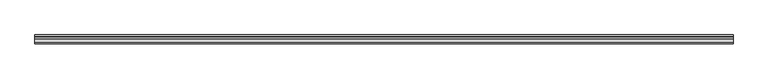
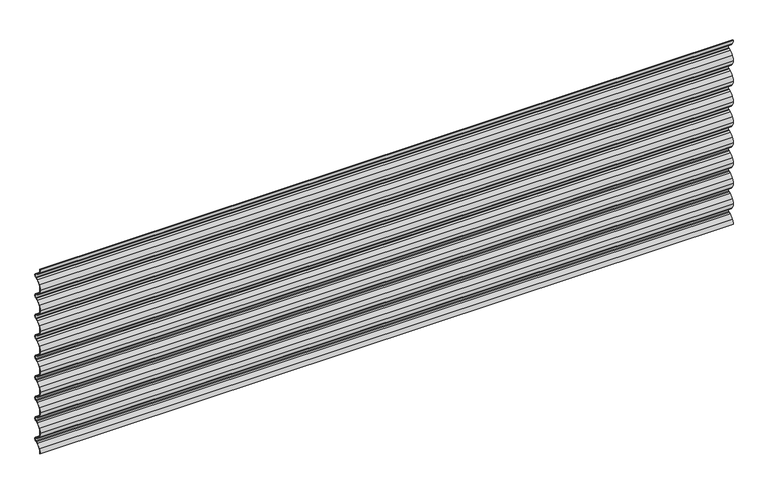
"""IFC4 building model written with IfcOpenShell, lengths in millimetres: plate geometry, Regolare Horizontal 801 : Regolare Horizontal 801."""

from ifc_helpers import new_model, si_unit, point, frame, frame_2d, origin, place, context, project, spatial, polyline, circle_curve, trimmed, segment, composite_curve, outline, extrude, source, transform, mapped, element, save


def plate_1a5d1da6(model_context):
    return source(origin(), model_context, "Body", "SweptSolid", [
        extrude(outline(composite_curve([segment(trimmed(circle_curve(frame_2d((38.4503244, 0.0)), 37.4503244), [point((6.5021495, 19.5407501))], [point((1.0, 0.0))], True, "CARTESIAN"), True, "CONTINUOUS"), segment(polyline([(1.0, 0.0), (0.0, 0.0)]), True, "CONTINUOUS"), segment(trimmed(circle_curve(frame_2d((38.4503244, 0.0)), 38.4503244), [point((0.0, 0.0))], [point((5.6490681, 20.062528))], False, "CARTESIAN"), True, "CONTINUOUS"), segment(trimmed(circle_curve(frame_2d((32.6206681, 3.5656452)), 31.6166783), [point((5.6490681, 20.062528))], [point((20.878867, 32.9211295))], False, "CARTESIAN"), True, "CONTINUOUS"), segment(polyline([(20.878867, 32.9211295), (28.0423924, 35.7903512), (31.4771017, 37.4367049)]), True, "CONTINUOUS"), segment(trimmed(circle_curve(frame_2d((28.0791236, 44.5257445)), 7.8613445), [point((31.4771017, 37.4367049))], [point((35.9404682, 44.5257445))], True, "CARTESIAN"), True, "CONTINUOUS"), segment(trimmed(circle_curve(frame_2d((28.0791236, 44.5257445)), 7.8613445), [point((35.9404682, 44.5257445))], [point((31.4771017, 51.6147842))], True, "CARTESIAN"), True, "CONTINUOUS"), segment(polyline([(31.4771017, 51.6147842), (28.0423924, 53.2611379), (20.878867, 56.1303596)]), True, "CONTINUOUS"), segment(trimmed(circle_curve(frame_2d((32.6206681, 85.4858438)), 31.6166783), [point((20.878867, 56.1303596))], [point((5.6490681, 68.9889611))], False, "CARTESIAN"), True, "CONTINUOUS"), segment(trimmed(circle_curve(frame_2d((38.4503244, 89.0514891)), 38.4503244), [point((5.6490681, 68.9889611))], [point((0.0, 89.0514891))], False, "CARTESIAN"), True, "CONTINUOUS"), segment(trimmed(circle_curve(frame_2d((38.4503244, 89.0514891)), 38.4503244), [point((0.0, 89.0514891))], [point((5.6490681, 109.1140171))], False, "CARTESIAN"), True, "CONTINUOUS"), segment(trimmed(circle_curve(frame_2d((32.6206681, 92.6171343)), 31.6166783), [point((5.6490681, 109.1140171))], [point((20.878867, 121.9726185))], False, "CARTESIAN"), True, "CONTINUOUS"), segment(polyline([(20.878867, 121.9726185), (28.0423924, 124.8418403), (31.4771017, 126.488194)]), True, "CONTINUOUS"), segment(trimmed(circle_curve(frame_2d((28.0791236, 133.5772336)), 7.8613445), [point((31.4771017, 126.488194))], [point((31.4771017, 140.6662733))], True, "CARTESIAN"), True, "CONTINUOUS"), segment(polyline([(31.4771017, 140.6662733), (28.0423924, 142.312627), (20.878867, 145.1818487)]), True, "CONTINUOUS"), segment(trimmed(circle_curve(frame_2d((32.6206681, 174.5373329)), 31.6166783), [point((20.878867, 145.1818487))], [point((5.6490681, 158.0404502))], False, "CARTESIAN"), True, "CONTINUOUS"), segment(trimmed(circle_curve(frame_2d((38.4503244, 178.1029782)), 38.4503244), [point((5.6490681, 158.0404502))], [point((0.0, 178.1029782))], False, "CARTESIAN"), True, "CONTINUOUS"), segment(trimmed(circle_curve(frame_2d((38.4503244, 178.1029782)), 38.4503244), [point((0.0, 178.1029782))], [point((5.6490681, 198.1655062))], False, "CARTESIAN"), True, "CONTINUOUS"), segment(trimmed(circle_curve(frame_2d((32.6206681, 181.6686234)), 31.6166783), [point((5.6490681, 198.1655062))], [point((20.878867, 211.0241076))], False, "CARTESIAN"), True, "CONTINUOUS"), segment(polyline([(20.878867, 211.0241076), (28.0423924, 213.8933293), (31.4771017, 215.5396831)]), True, "CONTINUOUS"), segment(trimmed(circle_curve(frame_2d((28.0791236, 222.6287227)), 7.8613445), [point((31.4771017, 215.5396831))], [point((31.4771017, 229.7177623))], True, "CARTESIAN"), True, "CONTINUOUS"), segment(polyline([(31.4771017, 229.7177623), (28.0423924, 231.3641161), (20.878867, 234.2333378)]), True, "CONTINUOUS"), segment(trimmed(circle_curve(frame_2d((32.6206681, 263.588822)), 31.6166783), [point((20.878867, 234.2333378))], [point((5.6490681, 247.0919392))], False, "CARTESIAN"), True, "CONTINUOUS"), segment(trimmed(circle_curve(frame_2d((38.4503244, 267.1544672)), 38.4503244), [point((5.6490681, 247.0919392))], [point((0.0, 267.1544672))], False, "CARTESIAN"), True, "CONTINUOUS"), segment(trimmed(circle_curve(frame_2d((38.4503244, 267.1544672)), 38.4503244), [point((0.0, 267.1544672))], [point((5.6490681, 287.2169952))], False, "CARTESIAN"), True, "CONTINUOUS"), segment(trimmed(circle_curve(frame_2d((32.6206681, 270.7201125)), 31.6166783), [point((5.6490681, 287.2169952))], [point((20.878867, 300.0755967))], False, "CARTESIAN"), True, "CONTINUOUS"), segment(polyline([(20.878867, 300.0755967), (28.0423924, 302.9448184), (31.4771017, 304.5911721)]), True, "CONTINUOUS"), segment(trimmed(circle_curve(frame_2d((28.0791236, 311.6802118)), 7.8613445), [point((31.4771017, 304.5911721))], [point((31.4771017, 318.7692514))], True, "CARTESIAN"), True, "CONTINUOUS"), segment(polyline([(31.4771017, 318.7692514), (28.0423924, 320.4156051), (20.878867, 323.2848269)]), True, "CONTINUOUS"), segment(trimmed(circle_curve(frame_2d((32.6206681, 352.6403111)), 31.6166783), [point((20.878867, 323.2848269))], [point((5.6490681, 336.1434283))], False, "CARTESIAN"), True, "CONTINUOUS"), segment(trimmed(circle_curve(frame_2d((38.4503244, 356.2059563)), 38.4503244), [point((5.6490681, 336.1434283))], [point((0.0, 356.2059563))], False, "CARTESIAN"), True, "CONTINUOUS"), segment(trimmed(circle_curve(frame_2d((38.4503244, 356.2059563)), 38.4503244), [point((0.0, 356.2059563))], [point((5.6490681, 376.2684843))], False, "CARTESIAN"), True, "CONTINUOUS"), segment(trimmed(circle_curve(frame_2d((32.6206681, 359.7716016)), 31.6166783), [point((5.6490681, 376.2684843))], [point((20.878867, 389.1270858))], False, "CARTESIAN"), True, "CONTINUOUS"), segment(polyline([(20.878867, 389.1270858), (28.0423924, 391.9963075), (31.4771017, 393.6426612)]), True, "CONTINUOUS"), segment(trimmed(circle_curve(frame_2d((28.0791236, 400.7317009)), 7.8613445), [point((31.4771017, 393.6426612))], [point((31.4771017, 407.8207405))], True, "CARTESIAN"), True, "CONTINUOUS"), segment(polyline([(31.4771017, 407.8207405), (28.0423924, 409.4670942), (20.878867, 412.3363159)]), True, "CONTINUOUS"), segment(trimmed(circle_curve(frame_2d((32.6206681, 441.6918002)), 31.6166783), [point((20.878867, 412.3363159))], [point((5.6490681, 425.1949174))], False, "CARTESIAN"), True, "CONTINUOUS"), segment(trimmed(circle_curve(frame_2d((38.4503244, 445.2574454)), 38.4503244), [point((5.6490681, 425.1949174))], [point((0.0, 445.2574454))], False, "CARTESIAN"), True, "CONTINUOUS"), segment(trimmed(circle_curve(frame_2d((38.4503244, 445.2574454)), 38.4503244), [point((0.0, 445.2574454))], [point((5.6490681, 465.3199734))], False, "CARTESIAN"), True, "CONTINUOUS"), segment(trimmed(circle_curve(frame_2d((32.6206681, 448.8230907)), 31.6166783), [point((5.6490681, 465.3199734))], [point((20.878867, 478.1785749))], False, "CARTESIAN"), True, "CONTINUOUS"), segment(polyline([(20.878867, 478.1785749), (28.0423924, 481.0477966), (31.4771017, 482.6941503)]), True, "CONTINUOUS"), segment(trimmed(circle_curve(frame_2d((28.0791236, 489.7831899)), 7.8613445), [point((31.4771017, 482.6941503))], [point((31.4771017, 496.8722296))], True, "CARTESIAN"), True, "CONTINUOUS"), segment(polyline([(31.4771017, 496.8722296), (28.0423924, 498.5185833), (20.878867, 501.387805)]), True, "CONTINUOUS"), segment(trimmed(circle_curve(frame_2d((32.6206681, 530.7432892)), 31.6166783), [point((20.878867, 501.387805))], [point((5.6490681, 514.2464065))], False, "CARTESIAN"), True, "CONTINUOUS"), segment(trimmed(circle_curve(frame_2d((38.4503244, 534.3089345)), 38.4503244), [point((5.6490681, 514.2464065))], [point((0.0, 534.3089345))], False, "CARTESIAN"), True, "CONTINUOUS"), segment(trimmed(circle_curve(frame_2d((38.4503244, 534.3089345)), 38.4503244), [point((0.0, 534.3089345))], [point((5.6490681, 554.3714625))], False, "CARTESIAN"), True, "CONTINUOUS"), segment(trimmed(circle_curve(frame_2d((32.6206681, 537.8745797)), 31.6166783), [point((5.6490681, 554.3714625))], [point((20.878867, 567.2300639))], False, "CARTESIAN"), True, "CONTINUOUS"), segment(polyline([(20.878867, 567.2300639), (28.0423924, 570.0992857), (31.4771017, 571.7456394)]), True, "CONTINUOUS"), segment(trimmed(circle_curve(frame_2d((28.0791236, 578.834679)), 7.8613445), [point((31.4771017, 571.7456394))], [point((31.4771017, 585.9237187))], True, "CARTESIAN"), True, "CONTINUOUS"), segment(polyline([(31.4771017, 585.9237187), (28.0423924, 587.5700724), (20.878867, 590.4392941)]), True, "CONTINUOUS"), segment(trimmed(circle_curve(frame_2d((32.6206681, 619.7947783)), 31.6166783), [point((20.878867, 590.4392941))], [point((5.6490681, 603.2978956))], False, "CARTESIAN"), True, "CONTINUOUS"), segment(trimmed(circle_curve(frame_2d((38.4503244, 623.3604236)), 38.4503244), [point((5.6490681, 603.2978956))], [point((0.0, 623.3604236))], False, "CARTESIAN"), True, "CONTINUOUS"), segment(trimmed(circle_curve(frame_2d((38.4503244, 623.3604236)), 38.4503244), [point((0.0, 623.3604236))], [point((5.6490681, 643.4229516))], False, "CARTESIAN"), True, "CONTINUOUS"), segment(trimmed(circle_curve(frame_2d((32.6206681, 626.9260688)), 31.6166783), [point((5.6490681, 643.4229516))], [point((20.878867, 656.281553))], False, "CARTESIAN"), True, "CONTINUOUS"), segment(polyline([(20.878867, 656.281553), (28.0423924, 659.1507748), (31.4771017, 660.7971285)]), True, "CONTINUOUS"), segment(trimmed(circle_curve(frame_2d((28.0791236, 667.8861681)), 7.8613445), [point((31.4771017, 660.7971285))], [point((31.4771017, 674.9752077))], True, "CARTESIAN"), True, "CONTINUOUS"), segment(polyline([(31.4771017, 674.9752077), (28.0423924, 676.6215615), (20.878867, 679.4907832)]), True, "CONTINUOUS"), segment(trimmed(circle_curve(frame_2d((32.6206681, 708.8462674)), 31.6166783), [point((20.878867, 679.4907832))], [point((5.6490681, 692.3493846))], False, "CARTESIAN"), True, "CONTINUOUS"), segment(trimmed(circle_curve(frame_2d((38.4503244, 712.4119126)), 38.4503244), [point((5.6490681, 692.3493846))], [point((0.0, 712.4119126))], False, "CARTESIAN"), True, "CONTINUOUS"), segment(trimmed(circle_curve(frame_2d((38.4503244, 712.4119126)), 38.4503244), [point((0.0, 712.4119126))], [point((5.6490681, 732.4744406))], False, "CARTESIAN"), True, "CONTINUOUS"), segment(trimmed(circle_curve(frame_2d((32.6206681, 715.9775579)), 31.6166783), [point((5.6490681, 732.4744406))], [point((20.878867, 745.3330421))], False, "CARTESIAN"), True, "CONTINUOUS"), segment(polyline([(20.878867, 745.3330421), (28.0423924, 748.2022638), (31.4771017, 749.8486175)]), True, "CONTINUOUS"), segment(trimmed(circle_curve(frame_2d((28.0791236, 756.9376572)), 7.8613445), [point((31.4771017, 749.8486175))], [point((31.4771017, 764.0266968))], True, "CARTESIAN"), True, "CONTINUOUS"), segment(polyline([(31.4771017, 764.0266968), (28.0423924, 765.6730505), (20.878867, 768.5422723)]), True, "CONTINUOUS"), segment(trimmed(circle_curve(frame_2d((32.6206681, 797.8977565)), 31.6166783), [point((20.878867, 768.5422723))], [point((5.6490681, 781.4008737))], False, "CARTESIAN"), True, "CONTINUOUS"), segment(trimmed(circle_curve(frame_2d((38.4503244, 801.4634017)), 38.4503244), [point((5.6490681, 781.4008737))], [point((0.0, 801.4634017))], False, "CARTESIAN"), True, "CONTINUOUS"), segment(polyline([(0.0, 801.4634017), (1.0, 801.4634017)]), True, "CONTINUOUS"), segment(trimmed(circle_curve(frame_2d((38.4503244, 801.4634017)), 37.4503244), [point((1.0, 801.4634017))], [point((6.5021495, 781.9226516))], True, "CARTESIAN"), True, "CONTINUOUS"), segment(trimmed(circle_curve(frame_2d((32.6206681, 797.8977565)), 30.6166783), [point((6.5021495, 781.9226516))], [point((21.2504634, 769.4706666))], True, "CARTESIAN"), True, "CONTINUOUS"), segment(polyline([(21.2504634, 769.4706666), (28.4448583, 766.5890807), (31.9093405, 764.928456)]), True, "CONTINUOUS"), segment(trimmed(circle_curve(frame_2d((28.0791236, 756.9376572)), 8.8613445), [point((31.9093405, 764.928456))], [point((31.9093405, 748.9468584))], False, "CARTESIAN"), True, "CONTINUOUS"), segment(polyline([(31.9093405, 748.9468584), (28.4448583, 747.2862336), (21.2504634, 744.4046477)]), True, "CONTINUOUS"), segment(trimmed(circle_curve(frame_2d((32.6206681, 715.9775579)), 30.6166783), [point((21.2504634, 744.4046477))], [point((6.5021495, 731.9526628))], True, "CARTESIAN"), True, "CONTINUOUS"), segment(trimmed(circle_curve(frame_2d((38.4503244, 712.4119126)), 37.4503244), [point((6.5021495, 731.9526628))], [point((1.0, 712.4119126))], True, "CARTESIAN"), True, "CONTINUOUS"), segment(trimmed(circle_curve(frame_2d((38.4503244, 712.4119126)), 37.4503244), [point((1.0, 712.4119126))], [point((6.5021495, 692.8711625))], True, "CARTESIAN"), True, "CONTINUOUS"), segment(trimmed(circle_curve(frame_2d((32.6206681, 708.8462674)), 30.6166783), [point((6.5021495, 692.8711625))], [point((21.2504634, 680.4191776))], True, "CARTESIAN"), True, "CONTINUOUS"), segment(polyline([(21.2504634, 680.4191776), (28.4448583, 677.5375917), (31.9093405, 675.8769669)]), True, "CONTINUOUS"), segment(trimmed(circle_curve(frame_2d((28.0791236, 667.8861681)), 8.8613445), [point((31.9093405, 675.8769669))], [point((31.9093405, 659.8953693))], False, "CARTESIAN"), True, "CONTINUOUS"), segment(polyline([(31.9093405, 659.8953693), (28.4448583, 658.2347446), (21.2504634, 655.3531587)]), True, "CONTINUOUS"), segment(trimmed(circle_curve(frame_2d((32.6206681, 626.9260688)), 30.6166783), [point((21.2504634, 655.3531587))], [point((6.5021495, 642.9011737))], True, "CARTESIAN"), True, "CONTINUOUS"), segment(trimmed(circle_curve(frame_2d((38.4503244, 623.3604236)), 37.4503244), [point((6.5021495, 642.9011737))], [point((1.0, 623.3604236))], True, "CARTESIAN"), True, "CONTINUOUS"), segment(trimmed(circle_curve(frame_2d((38.4503244, 623.3604236)), 37.4503244), [point((1.0, 623.3604236))], [point((6.5021495, 603.8196734))], True, "CARTESIAN"), True, "CONTINUOUS"), segment(trimmed(circle_curve(frame_2d((32.6206681, 619.7947783)), 30.6166783), [point((6.5021495, 603.8196734))], [point((21.2504634, 591.3676885))], True, "CARTESIAN"), True, "CONTINUOUS"), segment(polyline([(21.2504634, 591.3676885), (28.4448583, 588.4861026), (31.9093405, 586.8254778)]), True, "CONTINUOUS"), segment(trimmed(circle_curve(frame_2d((28.0791236, 578.834679)), 8.8613445), [point((31.9093405, 586.8254778))], [point((31.9093405, 570.8438802))], False, "CARTESIAN"), True, "CONTINUOUS"), segment(polyline([(31.9093405, 570.8438802), (28.4448583, 569.1832555), (21.2504634, 566.3016696)]), True, "CONTINUOUS"), segment(trimmed(circle_curve(frame_2d((32.6206681, 537.8745797)), 30.6166783), [point((21.2504634, 566.3016696))], [point((6.5021495, 553.8496846))], True, "CARTESIAN"), True, "CONTINUOUS"), segment(trimmed(circle_curve(frame_2d((38.4503244, 534.3089345)), 37.4503244), [point((6.5021495, 553.8496846))], [point((1.0, 534.3089345))], True, "CARTESIAN"), True, "CONTINUOUS"), segment(trimmed(circle_curve(frame_2d((38.4503244, 534.3089345)), 37.4503244), [point((1.0, 534.3089345))], [point((6.5021495, 514.7681843))], True, "CARTESIAN"), True, "CONTINUOUS"), segment(trimmed(circle_curve(frame_2d((32.6206681, 530.7432892)), 30.6166783), [point((6.5021495, 514.7681843))], [point((21.2504634, 502.3161994))], True, "CARTESIAN"), True, "CONTINUOUS"), segment(polyline([(21.2504634, 502.3161994), (28.4448583, 499.4346135), (31.9093405, 497.7739888)]), True, "CONTINUOUS"), segment(trimmed(circle_curve(frame_2d((28.0791236, 489.7831899)), 8.8613445), [point((31.9093405, 497.7739888))], [point((31.9093405, 481.7923911))], False, "CARTESIAN"), True, "CONTINUOUS"), segment(polyline([(31.9093405, 481.7923911), (28.4448583, 480.1317664), (21.2504634, 477.2501805)]), True, "CONTINUOUS"), segment(trimmed(circle_curve(frame_2d((32.6206681, 448.8230907)), 30.6166783), [point((21.2504634, 477.2501805))], [point((6.5021495, 464.7981955))], True, "CARTESIAN"), True, "CONTINUOUS"), segment(trimmed(circle_curve(frame_2d((38.4503244, 445.2574454)), 37.4503244), [point((6.5021495, 464.7981955))], [point((1.0, 445.2574454))], True, "CARTESIAN"), True, "CONTINUOUS"), segment(trimmed(circle_curve(frame_2d((38.4503244, 445.2574454)), 37.4503244), [point((1.0, 445.2574454))], [point((6.5021495, 425.7166953))], True, "CARTESIAN"), True, "CONTINUOUS"), segment(trimmed(circle_curve(frame_2d((32.6206681, 441.6918002)), 30.6166783), [point((6.5021495, 425.7166953))], [point((21.2504634, 413.2647103))], True, "CARTESIAN"), True, "CONTINUOUS"), segment(polyline([(21.2504634, 413.2647103), (28.4448583, 410.3831244), (31.9093405, 408.7224997)]), True, "CONTINUOUS"), segment(trimmed(circle_curve(frame_2d((28.0791236, 400.7317009)), 8.8613445), [point((31.9093405, 408.7224997))], [point((31.9093405, 392.740902))], False, "CARTESIAN"), True, "CONTINUOUS"), segment(polyline([(31.9093405, 392.740902), (28.4448583, 391.0802773), (21.2504634, 388.1986914)]), True, "CONTINUOUS"), segment(trimmed(circle_curve(frame_2d((32.6206681, 359.7716016)), 30.6166783), [point((21.2504634, 388.1986914))], [point((6.5021495, 375.7467065))], True, "CARTESIAN"), True, "CONTINUOUS"), segment(trimmed(circle_curve(frame_2d((38.4503244, 356.2059563)), 37.4503244), [point((6.5021495, 375.7467065))], [point((1.0, 356.2059563))], True, "CARTESIAN"), True, "CONTINUOUS"), segment(trimmed(circle_curve(frame_2d((38.4503244, 356.2059563)), 37.4503244), [point((1.0, 356.2059563))], [point((6.5021495, 336.6652062))], True, "CARTESIAN"), True, "CONTINUOUS"), segment(trimmed(circle_curve(frame_2d((32.6206681, 352.6403111)), 30.6166783), [point((6.5021495, 336.6652062))], [point((21.2504634, 324.2132212))], True, "CARTESIAN"), True, "CONTINUOUS"), segment(polyline([(21.2504634, 324.2132212), (28.4448583, 321.3316353), (31.9093405, 319.6710106)]), True, "CONTINUOUS"), segment(trimmed(circle_curve(frame_2d((28.0791236, 311.6802118)), 8.8613445), [point((31.9093405, 319.6710106))], [point((31.9093405, 303.689413))], False, "CARTESIAN"), True, "CONTINUOUS"), segment(polyline([(31.9093405, 303.689413), (28.4448583, 302.0287882), (21.2504634, 299.1472023)]), True, "CONTINUOUS"), segment(trimmed(circle_curve(frame_2d((32.6206681, 270.7201125)), 30.6166783), [point((21.2504634, 299.1472023))], [point((6.5021495, 286.6952174))], True, "CARTESIAN"), True, "CONTINUOUS"), segment(trimmed(circle_curve(frame_2d((38.4503244, 267.1544672)), 37.4503244), [point((6.5021495, 286.6952174))], [point((1.0, 267.1544672))], True, "CARTESIAN"), True, "CONTINUOUS"), segment(trimmed(circle_curve(frame_2d((38.4503244, 267.1544672)), 37.4503244), [point((1.0, 267.1544672))], [point((6.5021495, 247.6137171))], True, "CARTESIAN"), True, "CONTINUOUS"), segment(trimmed(circle_curve(frame_2d((32.6206681, 263.588822)), 30.6166783), [point((6.5021495, 247.6137171))], [point((21.2504634, 235.1617322))], True, "CARTESIAN"), True, "CONTINUOUS"), segment(polyline([(21.2504634, 235.1617322), (28.4448583, 232.2801463), (31.9093405, 230.6195215)]), True, "CONTINUOUS"), segment(trimmed(circle_curve(frame_2d((28.0791236, 222.6287227)), 8.8613445), [point((31.9093405, 230.6195215))], [point((31.9093405, 214.6379239))], False, "CARTESIAN"), True, "CONTINUOUS"), segment(polyline([(31.9093405, 214.6379239), (28.4448583, 212.9772992), (21.2504634, 210.0957133)]), True, "CONTINUOUS"), segment(trimmed(circle_curve(frame_2d((32.6206681, 181.6686234)), 30.6166783), [point((21.2504634, 210.0957133))], [point((6.5021495, 197.6437283))], True, "CARTESIAN"), True, "CONTINUOUS"), segment(trimmed(circle_curve(frame_2d((38.4503244, 178.1029782)), 37.4503244), [point((6.5021495, 197.6437283))], [point((1.0, 178.1029782))], True, "CARTESIAN"), True, "CONTINUOUS"), segment(trimmed(circle_curve(frame_2d((38.4503244, 178.1029782)), 37.4503244), [point((1.0, 178.1029782))], [point((6.5021495, 158.562228))], True, "CARTESIAN"), True, "CONTINUOUS"), segment(trimmed(circle_curve(frame_2d((32.6206681, 174.5373329)), 30.6166783), [point((6.5021495, 158.562228))], [point((21.2504634, 146.1102431))], True, "CARTESIAN"), True, "CONTINUOUS"), segment(polyline([(21.2504634, 146.1102431), (28.4448583, 143.2286572), (31.9093405, 141.5680324)]), True, "CONTINUOUS"), segment(trimmed(circle_curve(frame_2d((28.0791236, 133.5772336)), 8.8613445), [point((31.9093405, 141.5680324))], [point((31.9093405, 125.5864348))], False, "CARTESIAN"), True, "CONTINUOUS"), segment(polyline([(31.9093405, 125.5864348), (28.4448583, 123.9258101), (21.2504634, 121.0442242)]), True, "CONTINUOUS"), segment(trimmed(circle_curve(frame_2d((32.6206681, 92.6171343)), 30.6166783), [point((21.2504634, 121.0442242))], [point((6.5021495, 108.5922392))], True, "CARTESIAN"), True, "CONTINUOUS"), segment(trimmed(circle_curve(frame_2d((38.4503244, 89.0514891)), 37.4503244), [point((6.5021495, 108.5922392))], [point((1.0, 89.0514891))], True, "CARTESIAN"), True, "CONTINUOUS"), segment(trimmed(circle_curve(frame_2d((38.4503244, 89.0514891)), 37.4503244), [point((1.0, 89.0514891))], [point((6.5021495, 69.5107389))], True, "CARTESIAN"), True, "CONTINUOUS"), segment(trimmed(circle_curve(frame_2d((32.6206681, 85.4858438)), 30.6166783), [point((6.5021495, 69.5107389))], [point((21.2504634, 57.058754))], True, "CARTESIAN"), True, "CONTINUOUS"), segment(polyline([(21.2504634, 57.058754), (28.4448583, 54.1771681), (31.9093405, 52.5165434)]), True, "CONTINUOUS"), segment(trimmed(circle_curve(frame_2d((28.0791236, 44.5257445)), 8.8613445), [point((31.9093405, 52.5165434))], [point((36.9404682, 44.5257445))], False, "CARTESIAN"), True, "CONTINUOUS"), segment(trimmed(circle_curve(frame_2d((28.0791236, 44.5257445)), 8.8613445), [point((36.9404682, 44.5257445))], [point((31.9093405, 36.5349457))], False, "CARTESIAN"), True, "CONTINUOUS"), segment(polyline([(31.9093405, 36.5349457), (28.4448583, 34.874321), (21.2504634, 31.9927351)]), True, "CONTINUOUS"), segment(trimmed(circle_curve(frame_2d((32.6206681, 3.5656452)), 30.6166783), [point((21.2504634, 31.9927351))], [point((6.5021495, 19.5407501))], True, "CARTESIAN"), True, "CONTINUOUS")], self_intersect=False)), frame((-1424.5, 0.0, 0.0), z_axis=(1.0, 0.0, 0.0), x_axis=(0.0, 1.0, 0.0)), (0.0, 0.0, 1.0), 2849.0),
    ])


if __name__ == "__main__":
    model = new_model("IFC4")
    model_context = context("Model", 3, world=origin())
    ifc_project = project(units=[si_unit("LENGTHUNIT", "METRE", prefix="MILLI")], contexts=[model_context])
    site = spatial("IfcSite", under=ifc_project)
    building = spatial("IfcBuilding", under=site)
    placement = place(None, origin())
    plate_shape = plate_1a5d1da6(model_context)
    element("IfcPlate", 1, ObjectType="Regolare Horizontal 801 : Regolare Horizontal 801", at=placement, inside=building, context=model_context, shape_type="MappedRepresentation", body=[
        mapped(plate_shape, transform((0.0, 0.0, 0.0), x_axis=(1.0, 0.0, 0.0), y_axis=(0.0, 1.0, 0.0), z_axis=(0.0, 0.0, 1.0))),
    ])
    save(model, "model.ifc")
